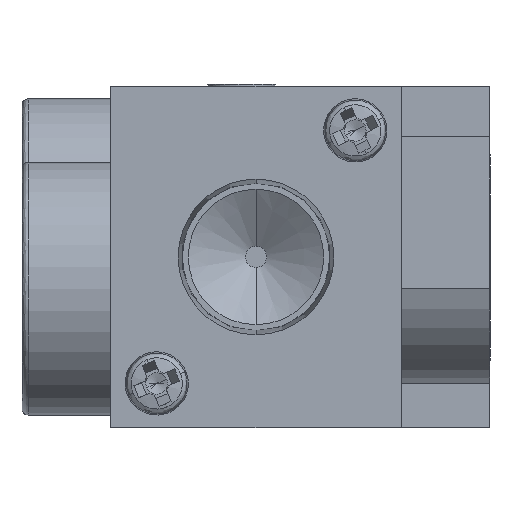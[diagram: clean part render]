
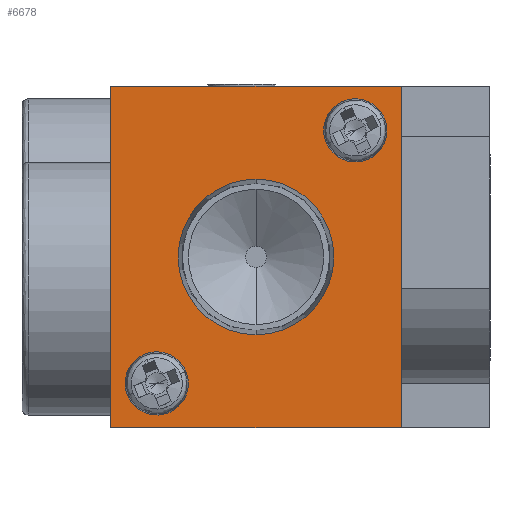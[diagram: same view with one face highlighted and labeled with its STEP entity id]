
A CAD part, left-side view. The second image highlights one B-rep face of the part: STEP entity #6678.
In plain terms, the highlighted planar face has unit normal (-1, 0, 0) as drawn and (1, 0, 0) by its records, which use the part's own axes.
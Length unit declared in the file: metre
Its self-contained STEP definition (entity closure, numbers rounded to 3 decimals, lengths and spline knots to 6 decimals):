
#260 = ORIENTED_EDGE ( 'NONE', *, *, #8623, .F. ) ;
#480 = CARTESIAN_POINT ( 'NONE',  ( 0.0069, 0.021, 0. ) ) ;
#1135 = VECTOR ( 'NONE', #1769, 1. ) ;
#1172 = CARTESIAN_POINT ( 'NONE',  ( 0.0069, 0.021, 0.027 ) ) ;
#1237 = EDGE_CURVE ( 'NONE', #7575, #3300, #2921, .T. ) ;
#1318 = FACE_OUTER_BOUND ( 'NONE', #2780, .T. ) ;
#1455 = PLANE ( 'NONE',  #7429 ) ;
#1636 = VECTOR ( 'NONE', #7064, 1. ) ;
#1769 = DIRECTION ( 'NONE',  ( 0., 1., 0. ) ) ;
#1903 = CIRCLE ( 'NONE', #6582, 0.006154 ) ;
#2097 = ORIENTED_EDGE ( 'NONE', *, *, #1237, .T. ) ;
#2127 = DIRECTION ( 'NONE',  ( 0., 0., -1. ) ) ;
#2265 = CARTESIAN_POINT ( 'NONE',  ( 0.0069, 0.021, 0.027 ) ) ;
#2284 = DIRECTION ( 'NONE',  ( 1., 0., 0. ) ) ;
#2780 = EDGE_LOOP ( 'NONE', ( #2097, #6191, #7887, #4489 ) ) ;
#2921 = LINE ( 'NONE', #480, #1135 ) ;
#3100 = FACE_BOUND ( 'NONE', #7031, .T. ) ;
#3181 = CARTESIAN_POINT ( 'NONE',  ( 0.0069, 0.044, 0. ) ) ;
#3300 = VERTEX_POINT ( 'NONE', #3181 ) ;
#3364 = CARTESIAN_POINT ( 'NONE',  ( 0.0069, 0.0325, 0.007346 ) ) ;
#4162 = VERTEX_POINT ( 'NONE', #1172 ) ;
#4165 = DIRECTION ( 'NONE',  ( 0., -1., 0. ) ) ;
#4489 = ORIENTED_EDGE ( 'NONE', *, *, #5206, .T. ) ;
#4826 = LINE ( 'NONE', #2265, #6075 ) ;
#4972 = VERTEX_POINT ( 'NONE', #3364 ) ;
#5006 = VECTOR ( 'NONE', #4165, 1. ) ;
#5063 = CARTESIAN_POINT ( 'NONE',  ( 0.0069, 0.0325, 0.019654 ) ) ;
#5206 = EDGE_CURVE ( 'NONE', #4162, #7575, #4826, .T. ) ;
#5313 = CIRCLE ( 'NONE', #7093, 0.006154 ) ;
#5498 = DIRECTION ( 'NONE',  ( 1., 0., 0. ) ) ;
#5541 = CARTESIAN_POINT ( 'NONE',  ( 0.0069, 0.021, 0. ) ) ;
#5654 = LINE ( 'NONE', #5775, #1636 ) ;
#5775 = CARTESIAN_POINT ( 'NONE',  ( 0.0069, 0.044, 0. ) ) ;
#5825 = VERTEX_POINT ( 'NONE', #6712 ) ;
#6075 = VECTOR ( 'NONE', #7009, 1. ) ;
#6088 = DIRECTION ( 'NONE',  ( 1., 0., 0. ) ) ;
#6165 = ORIENTED_EDGE ( 'NONE', *, *, #8103, .F. ) ;
#6191 = ORIENTED_EDGE ( 'NONE', *, *, #6262, .T. ) ;
#6262 = EDGE_CURVE ( 'NONE', #3300, #5825, #5654, .T. ) ;
#6335 = CARTESIAN_POINT ( 'NONE',  ( 0.0069, 0.0325, 0.0135 ) ) ;
#6582 = AXIS2_PLACEMENT_3D ( 'NONE', #6335, #2284, #7555 ) ;
#6678 = ADVANCED_FACE ( 'NONE', ( #3100, #1318 ), #1455, .T. ) ;
#6712 = CARTESIAN_POINT ( 'NONE',  ( 0.0069, 0.044, 0.027 ) ) ;
#6806 = LINE ( 'NONE', #8279, #5006 ) ;
#6843 = DIRECTION ( 'NONE',  ( 0., 0., -1. ) ) ;
#7009 = DIRECTION ( 'NONE',  ( 0., 0., -1. ) ) ;
#7031 = EDGE_LOOP ( 'NONE', ( #260, #6165 ) ) ;
#7064 = DIRECTION ( 'NONE',  ( 0., 0., 1. ) ) ;
#7093 = AXIS2_PLACEMENT_3D ( 'NONE', #8112, #5498, #6843 ) ;
#7286 = EDGE_CURVE ( 'NONE', #5825, #4162, #6806, .T. ) ;
#7429 = AXIS2_PLACEMENT_3D ( 'NONE', #7546, #6088, #2127 ) ;
#7546 = CARTESIAN_POINT ( 'NONE',  ( 0.0069, 0., 0. ) ) ;
#7555 = DIRECTION ( 'NONE',  ( 0., 0., -1. ) ) ;
#7575 = VERTEX_POINT ( 'NONE', #5541 ) ;
#7625 = VERTEX_POINT ( 'NONE', #5063 ) ;
#7887 = ORIENTED_EDGE ( 'NONE', *, *, #7286, .T. ) ;
#8103 = EDGE_CURVE ( 'NONE', #7625, #4972, #5313, .T. ) ;
#8112 = CARTESIAN_POINT ( 'NONE',  ( 0.0069, 0.0325, 0.0135 ) ) ;
#8279 = CARTESIAN_POINT ( 'NONE',  ( 0.0069, 0.044, 0.027 ) ) ;
#8623 = EDGE_CURVE ( 'NONE', #4972, #7625, #1903, .T. ) ;
